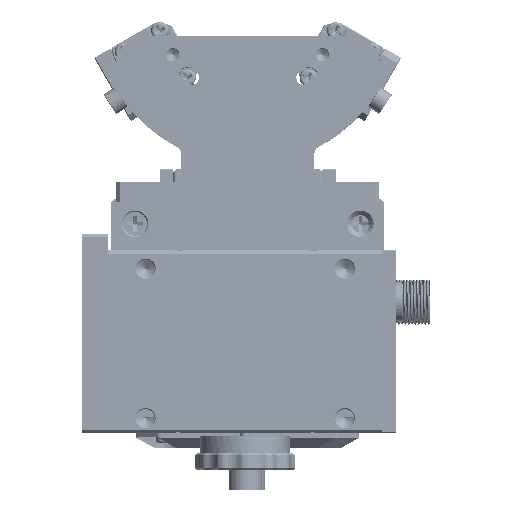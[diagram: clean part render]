
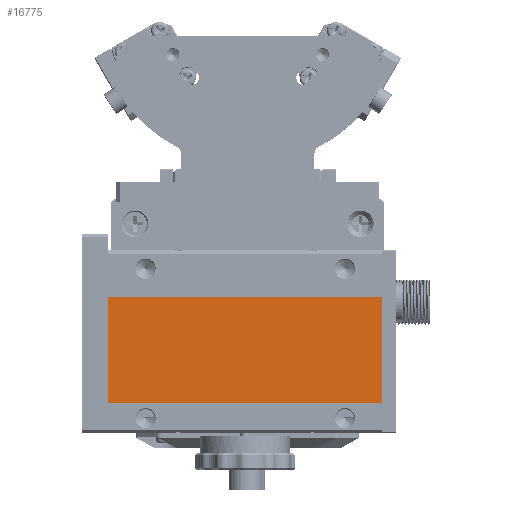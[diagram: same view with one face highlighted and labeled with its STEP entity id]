
A CAD part, front view. The second image highlights one B-rep face of the part: STEP entity #16775.
In plain terms, the highlighted planar face has unit normal (0, -1, 0).
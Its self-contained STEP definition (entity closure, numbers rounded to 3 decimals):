
#15600=DIRECTION('',(0.,0.,1.));
#15601=VECTOR('',#15600,32.);
#15602=CARTESIAN_POINT('',(-41.25,0.,-16.));
#15603=LINE('',#15602,#15601);
#15604=DIRECTION('',(1.,0.,0.));
#15605=VECTOR('',#15604,82.5);
#15606=CARTESIAN_POINT('',(-41.25,0.,16.));
#15607=LINE('',#15606,#15605);
#15608=DIRECTION('',(0.,0.,-1.));
#15609=VECTOR('',#15608,32.);
#15610=CARTESIAN_POINT('',(41.25,0.,16.));
#15611=LINE('',#15610,#15609);
#15612=DIRECTION('',(-1.,0.,0.));
#15613=VECTOR('',#15612,82.5);
#15614=CARTESIAN_POINT('',(41.25,0.,-16.));
#15615=LINE('',#15614,#15613);
#16492=CARTESIAN_POINT('',(-41.25,0.,-16.));
#16493=CARTESIAN_POINT('',(-41.25,0.,16.));
#16494=VERTEX_POINT('',#16492);
#16495=VERTEX_POINT('',#16493);
#16496=CARTESIAN_POINT('',(41.25,0.,16.));
#16497=VERTEX_POINT('',#16496);
#16498=CARTESIAN_POINT('',(41.25,0.,-16.));
#16499=VERTEX_POINT('',#16498);
#16760=CARTESIAN_POINT('',(0.,0.,0.));
#16761=DIRECTION('',(0.,-1.,0.));
#16762=DIRECTION('',(1.,0.,0.));
#16763=AXIS2_PLACEMENT_3D('',#16760,#16761,#16762);
#16764=PLANE('',#16763);
#16766=ORIENTED_EDGE('',*,*,#16765,.T.);
#16768=ORIENTED_EDGE('',*,*,#16767,.T.);
#16770=ORIENTED_EDGE('',*,*,#16769,.T.);
#16772=ORIENTED_EDGE('',*,*,#16771,.T.);
#16773=EDGE_LOOP('',(#16766,#16768,#16770,#16772));
#16774=FACE_OUTER_BOUND('',#16773,.F.);
#16775=ADVANCED_FACE('',(#16774),#16764,.T.);
#16765=EDGE_CURVE('',#16494,#16495,#15603,.T.);
#16767=EDGE_CURVE('',#16495,#16497,#15607,.T.);
#16769=EDGE_CURVE('',#16497,#16499,#15611,.T.);
#16771=EDGE_CURVE('',#16499,#16494,#15615,.T.);
